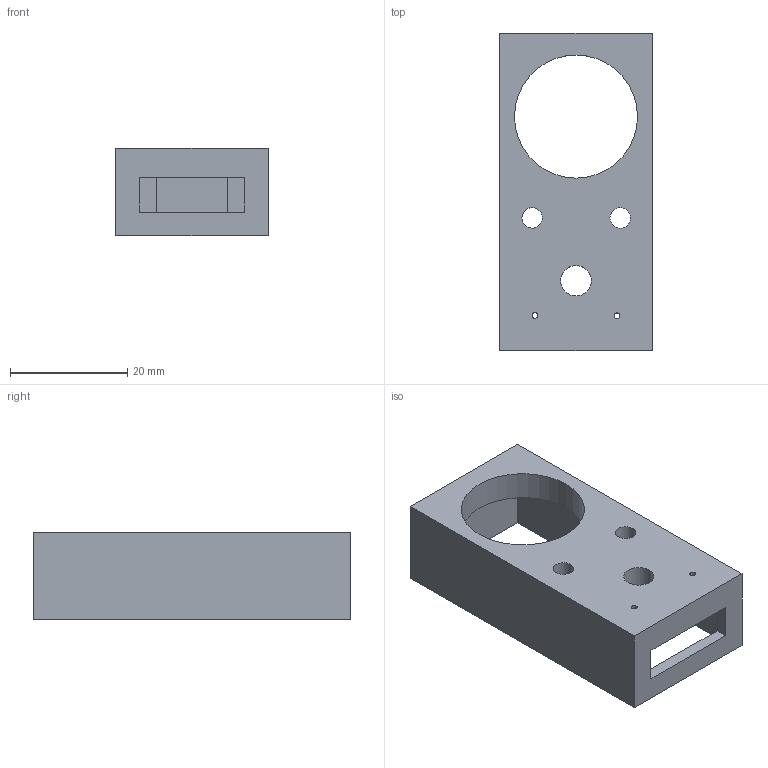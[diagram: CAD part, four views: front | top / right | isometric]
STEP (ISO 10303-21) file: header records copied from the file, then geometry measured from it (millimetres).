
FILE_DESCRIPTION(('FreeCAD Model'),'2;1');
FILE_NAME('C:/WHu/3D-Printer/Designs-WHU/FT5/Safety processor/Detector Housing.step','2017-09-24T12:07:05',('Author'),(''), 'Open CASCADE STEP processor 6.8','FreeCAD','Unknown');
FILE_SCHEMA(('AUTOMOTIVE_DESIGN_CC2 { 1 2 10303 214 -1 1 5 4 }'));
Length unit declared in the file: millimetre
Products named in the file (2): ASSEMBLY; Detector_Housing
Assembly tree (1 placements, depth 2):
  ASSEMBLY
    Detector_Housing
Bounding box: 26 x 54.1 x 15 mm (x, y, z)
Volume: 7370.8 mm3; surface area: 6628.2 mm2
Topology: 1 solids, 1 shells, 36 faces, 102 edges, 68 vertices
Faces by surface type: plane 30, cylinder 6
Full cylindrical faces by diameter (mm): 1 x2, 3.5 x2, 5.2 x1, 21 x1
Entity records: 2999 total; most frequent: CARTESIAN_POINT 938, DIRECTION 362, LINE 248, VECTOR 248, ORIENTED_EDGE 204, PCURVE 204, DEFINITIONAL_REPRESENTATION 204, EDGE_CURVE 102
